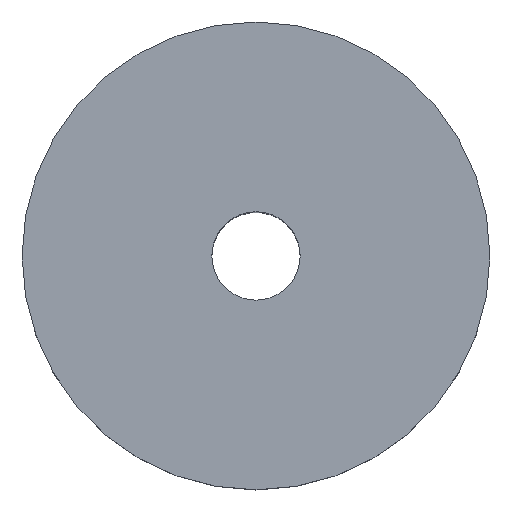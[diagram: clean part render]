
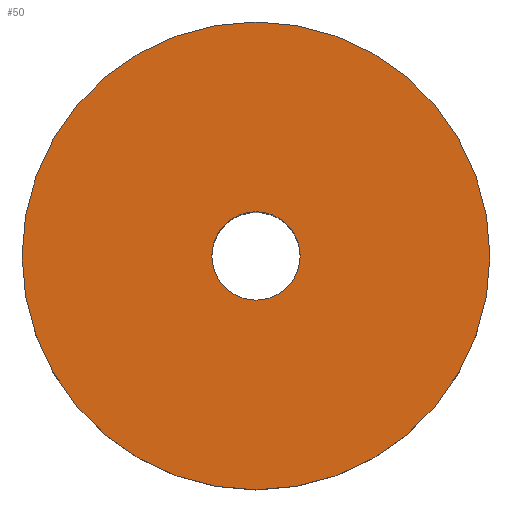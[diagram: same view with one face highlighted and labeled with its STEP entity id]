
A CAD part, top view. The second image highlights one B-rep face of the part: STEP entity #50.
In plain terms, the highlighted planar face has unit normal (0, 0, 1).
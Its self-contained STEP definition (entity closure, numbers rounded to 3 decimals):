
#21 = EDGE_CURVE('',#22,#22,#24,.T.);
#22 = VERTEX_POINT('',#23);
#23 = CARTESIAN_POINT('',(54.,0.,0.));
#24 = CIRCLE('',#25,9.);
#25 = AXIS2_PLACEMENT_3D('',#26,#27,#28);
#26 = CARTESIAN_POINT('',(45.,0.,0.));
#27 = DIRECTION('',(0.,0.,1.));
#28 = DIRECTION('',(1.,0.,0.));
#50 = ADVANCED_FACE('',(#51,#54),#65,.T.);
#51 = FACE_BOUND('',#52,.T.);
#52 = EDGE_LOOP('',(#53));
#53 = ORIENTED_EDGE('',*,*,#21,.T.);
#54 = FACE_BOUND('',#55,.T.);
#55 = EDGE_LOOP('',(#56));
#56 = ORIENTED_EDGE('',*,*,#57,.F.);
#57 = EDGE_CURVE('',#58,#58,#60,.T.);
#58 = VERTEX_POINT('',#59);
#59 = CARTESIAN_POINT('',(46.7,0.,0.));
#60 = CIRCLE('',#61,1.7);
#61 = AXIS2_PLACEMENT_3D('',#62,#63,#64);
#62 = CARTESIAN_POINT('',(45.,0.,0.));
#63 = DIRECTION('',(0.,0.,1.));
#64 = DIRECTION('',(1.,0.,0.));
#65 = PLANE('',#66);
#66 = AXIS2_PLACEMENT_3D('',#67,#68,#69);
#67 = CARTESIAN_POINT('',(45.,0.,0.));
#68 = DIRECTION('',(0.,0.,1.));
#69 = DIRECTION('',(1.,0.,0.));
